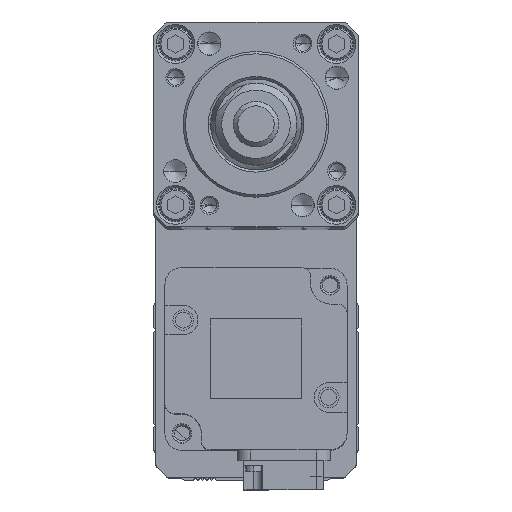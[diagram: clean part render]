
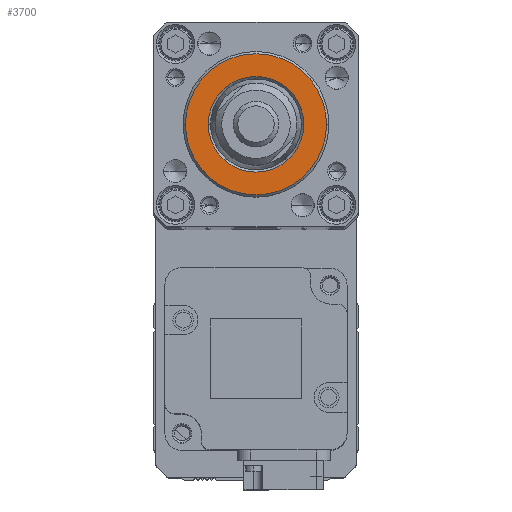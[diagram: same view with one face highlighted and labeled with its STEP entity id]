
A CAD part, top view. The second image highlights one B-rep face of the part: STEP entity #3700.
In plain terms, the highlighted planar face has unit normal (0, 0, 1).
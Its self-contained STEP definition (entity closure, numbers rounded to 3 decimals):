
#503 = CIRCLE ( 'NONE', #27866, 15.5 ) ;
#1201 = CIRCLE ( 'NONE', #14964, 10.5 ) ;
#1260 = CARTESIAN_POINT ( 'NONE',  ( 15.5, 0., 357. ) ) ;
#2161 = EDGE_LOOP ( 'NONE', ( #16483, #9724 ) ) ;
#3658 = CIRCLE ( 'NONE', #8218, 10.5 ) ;
#3700 = ADVANCED_FACE ( 'NONE', ( #32145, #31372 ), #21191, .T. ) ;
#4028 = AXIS2_PLACEMENT_3D ( 'NONE', #27699, #12733, #30251 ) ;
#5540 = DIRECTION ( 'NONE',  ( 0., 0., -1. ) ) ;
#5859 = VERTEX_POINT ( 'NONE', #1260 ) ;
#6173 = DIRECTION ( 'NONE',  ( 0., 0., 1. ) ) ;
#8218 = AXIS2_PLACEMENT_3D ( 'NONE', #28763, #13746, #31283 ) ;
#8367 = EDGE_CURVE ( 'NONE', #15554, #13298, #1201, .T. ) ;
#9724 = ORIENTED_EDGE ( 'NONE', *, *, #8367, .T. ) ;
#10659 = VERTEX_POINT ( 'NONE', #16788 ) ;
#12733 = DIRECTION ( 'NONE',  ( 0., 0., 1. ) ) ;
#12913 = DIRECTION ( 'NONE',  ( 0., 0., 1. ) ) ;
#13298 = VERTEX_POINT ( 'NONE', #15076 ) ;
#13746 = DIRECTION ( 'NONE',  ( 0., 0., -1. ) ) ;
#14601 = ORIENTED_EDGE ( 'NONE', *, *, #19219, .T. ) ;
#14964 = AXIS2_PLACEMENT_3D ( 'NONE', #20547, #5540, #23090 ) ;
#15076 = CARTESIAN_POINT ( 'NONE',  ( 10.5, 0., 357. ) ) ;
#15554 = VERTEX_POINT ( 'NONE', #32048 ) ;
#16483 = ORIENTED_EDGE ( 'NONE', *, *, #29326, .T. ) ;
#16788 = CARTESIAN_POINT ( 'NONE',  ( -15.5, 0., 357. ) ) ;
#19219 = EDGE_CURVE ( 'NONE', #5859, #10659, #503, .T. ) ;
#20547 = CARTESIAN_POINT ( 'NONE',  ( 0., 0., 357. ) ) ;
#21191 = PLANE ( 'NONE',  #31877 ) ;
#22472 = EDGE_CURVE ( 'NONE', #10659, #5859, #30189, .T. ) ;
#23090 = DIRECTION ( 'NONE',  ( 1., 0., 0. ) ) ;
#23736 = DIRECTION ( 'NONE',  ( 1., 0., 0. ) ) ;
#27699 = CARTESIAN_POINT ( 'NONE',  ( 0., 0., 357. ) ) ;
#27866 = AXIS2_PLACEMENT_3D ( 'NONE', #27905, #12913, #30426 ) ;
#27905 = CARTESIAN_POINT ( 'NONE',  ( 0., 0., 357. ) ) ;
#28644 = CARTESIAN_POINT ( 'NONE',  ( 0., 0., 357. ) ) ;
#28763 = CARTESIAN_POINT ( 'NONE',  ( 0., 0., 357. ) ) ;
#29326 = EDGE_CURVE ( 'NONE', #13298, #15554, #3658, .T. ) ;
#30164 = EDGE_LOOP ( 'NONE', ( #31157, #14601 ) ) ;
#30189 = CIRCLE ( 'NONE', #4028, 15.5 ) ;
#30251 = DIRECTION ( 'NONE',  ( 1., 0., 0. ) ) ;
#30426 = DIRECTION ( 'NONE',  ( 1., 0., 0. ) ) ;
#31157 = ORIENTED_EDGE ( 'NONE', *, *, #22472, .T. ) ;
#31283 = DIRECTION ( 'NONE',  ( 1., 0., 0. ) ) ;
#31372 = FACE_OUTER_BOUND ( 'NONE', #30164, .T. ) ;
#31877 = AXIS2_PLACEMENT_3D ( 'NONE', #28644, #6173, #23736 ) ;
#32048 = CARTESIAN_POINT ( 'NONE',  ( -10.5, 0., 357. ) ) ;
#32145 = FACE_BOUND ( 'NONE', #2161, .T. ) ;
